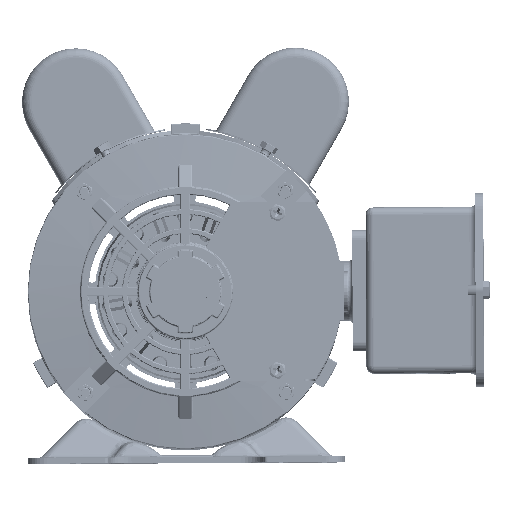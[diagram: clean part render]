
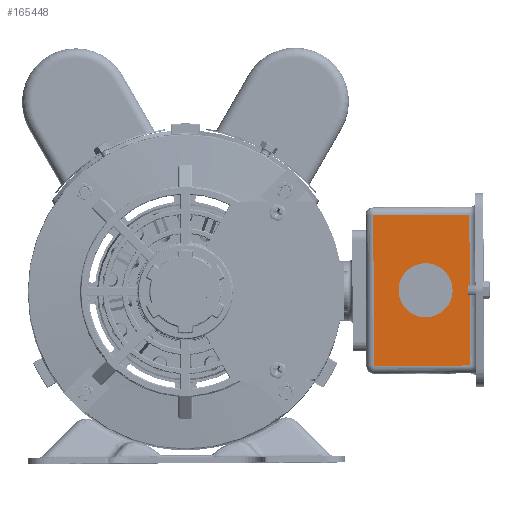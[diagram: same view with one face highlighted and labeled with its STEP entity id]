
A CAD part, top view. The second image highlights one B-rep face of the part: STEP entity #165448.
In plain terms, the highlighted planar face has unit normal (0, 0, 1).
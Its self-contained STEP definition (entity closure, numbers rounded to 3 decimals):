
#940 = ORIENTED_EDGE ( 'NONE', *, *, #134649, .T. ) ;
#2747 = VECTOR ( 'NONE', #57210, 1000. ) ;
#3739 = EDGE_CURVE ( 'NONE', #144456, #80122, #122654, .T. ) ;
#4759 = DIRECTION ( 'NONE',  ( 1., 0.006, 0. ) ) ;
#5354 = CARTESIAN_POINT ( 'NONE',  ( 83.462, 12.244, 208.825 ) ) ;
#6132 = CARTESIAN_POINT ( 'NONE',  ( 79.235, 51.47, 208.825 ) ) ;
#12330 = DIRECTION ( 'NONE',  ( 0., 0., 1. ) ) ;
#16966 = CARTESIAN_POINT ( 'NONE',  ( 110.462, 12.4, 208.825 ) ) ;
#18706 = CIRCLE ( 'NONE', #113784, 14.085 ) ;
#25076 = FACE_BOUND ( 'NONE', #142144, .T. ) ;
#29564 = CARTESIAN_POINT ( 'NONE',  ( 133.688, -26.716, 208.825 ) ) ;
#33615 = LINE ( 'NONE', #85545, #156558 ) ;
#35656 = ORIENTED_EDGE ( 'NONE', *, *, #3739, .T. ) ;
#41356 = VERTEX_POINT ( 'NONE', #96997 ) ;
#43661 = DIRECTION ( 'NONE',  ( -0.006, 1., 0. ) ) ;
#44603 = CARTESIAN_POINT ( 'NONE',  ( 133.234, 51.783, 208.825 ) ) ;
#56249 = VERTEX_POINT ( 'NONE', #105635 ) ;
#57210 = DIRECTION ( 'NONE',  ( 0.006, -1., 0. ) ) ;
#57987 = DIRECTION ( 'NONE',  ( -1., -0.006, 0. ) ) ;
#64225 = DIRECTION ( 'NONE',  ( 1., 0.006, 0. ) ) ;
#68882 = DIRECTION ( 'NONE',  ( 0., 0., 1. ) ) ;
#69405 = CARTESIAN_POINT ( 'NONE',  ( 110.462, 12.4, 208.825 ) ) ;
#76993 = PLANE ( 'NONE',  #119708 ) ;
#80122 = VERTEX_POINT ( 'NONE', #151481 ) ;
#85545 = CARTESIAN_POINT ( 'NONE',  ( 137.688, -26.693, 208.825 ) ) ;
#92353 = EDGE_CURVE ( 'NONE', #80122, #41356, #121868, .T. ) ;
#96997 = CARTESIAN_POINT ( 'NONE',  ( 83.689, -27.005, 208.825 ) ) ;
#100502 = CARTESIAN_POINT ( 'NONE',  ( 124.546, 12.482, 208.825 ) ) ;
#101488 = ORIENTED_EDGE ( 'NONE', *, *, #92353, .T. ) ;
#105635 = CARTESIAN_POINT ( 'NONE',  ( 96.377, 12.319, 208.825 ) ) ;
#108295 = LINE ( 'NONE', #160241, #164380 ) ;
#111000 = VERTEX_POINT ( 'NONE', #29564 ) ;
#112021 = CIRCLE ( 'NONE', #133779, 14.085 ) ;
#113784 = AXIS2_PLACEMENT_3D ( 'NONE', #16966, #68882, #120775 ) ;
#114418 = ORIENTED_EDGE ( 'NONE', *, *, #155508, .F. ) ;
#117296 = VECTOR ( 'NONE', #57987, 1000. ) ;
#119708 = AXIS2_PLACEMENT_3D ( 'NONE', #128886, #12330, #64225 ) ;
#120775 = DIRECTION ( 'NONE',  ( 1., 0.006, 0. ) ) ;
#121292 = DIRECTION ( 'NONE',  ( 0., 0., 1. ) ) ;
#121868 = LINE ( 'NONE', #5354, #2747 ) ;
#122298 = EDGE_LOOP ( 'NONE', ( #940, #134769, #35656, #101488 ) ) ;
#122654 = LINE ( 'NONE', #6132, #117296 ) ;
#128870 = ORIENTED_EDGE ( 'NONE', *, *, #129477, .F. ) ;
#128886 = CARTESIAN_POINT ( 'NONE',  ( 137.461, 12.557, 208.825 ) ) ;
#129477 = EDGE_CURVE ( 'NONE', #56249, #148469, #112021, .T. ) ;
#133779 = AXIS2_PLACEMENT_3D ( 'NONE', #69405, #121292, #4759 ) ;
#134649 = EDGE_CURVE ( 'NONE', #41356, #111000, #33615, .T. ) ;
#134769 = ORIENTED_EDGE ( 'NONE', *, *, #150555, .T. ) ;
#137418 = DIRECTION ( 'NONE',  ( 1., 0.006, 0. ) ) ;
#141669 = FACE_OUTER_BOUND ( 'NONE', #122298, .T. ) ;
#142144 = EDGE_LOOP ( 'NONE', ( #114418, #128870 ) ) ;
#144456 = VERTEX_POINT ( 'NONE', #44603 ) ;
#148469 = VERTEX_POINT ( 'NONE', #100502 ) ;
#150555 = EDGE_CURVE ( 'NONE', #111000, #144456, #108295, .T. ) ;
#151481 = CARTESIAN_POINT ( 'NONE',  ( 83.235, 51.493, 208.825 ) ) ;
#155508 = EDGE_CURVE ( 'NONE', #148469, #56249, #18706, .T. ) ;
#156558 = VECTOR ( 'NONE', #137418, 1000. ) ;
#160241 = CARTESIAN_POINT ( 'NONE',  ( 133.211, 55.783, 208.825 ) ) ;
#164380 = VECTOR ( 'NONE', #43661, 1000. ) ;
#165448 = ADVANCED_FACE ( 'NONE', ( #141669, #25076 ), #76993, .T. ) ;
